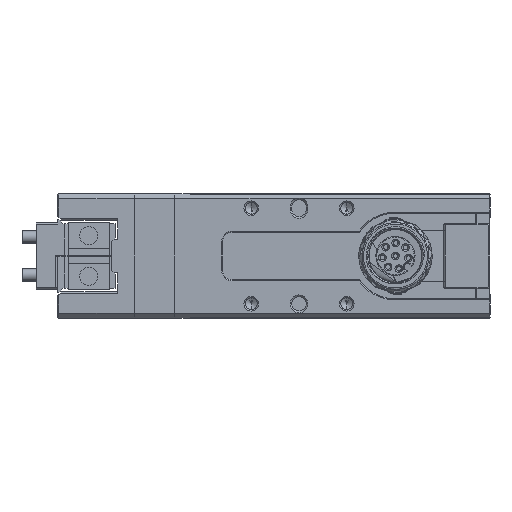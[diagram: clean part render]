
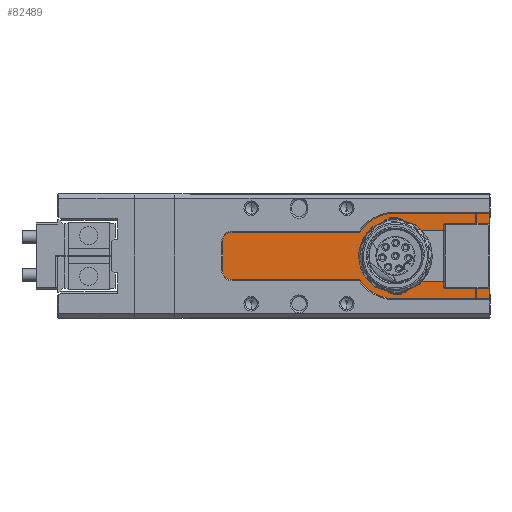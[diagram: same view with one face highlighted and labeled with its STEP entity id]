
A CAD part, left-side view. The second image highlights one B-rep face of the part: STEP entity #82489.
In plain terms, the highlighted planar face has unit normal (-1, 0, 0).
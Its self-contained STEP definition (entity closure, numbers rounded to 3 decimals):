
#1751 = DIRECTION ( 'NONE',  ( 1., 0., 0. ) ) ;
#3476 = EDGE_CURVE ( 'NONE', #31951, #28215, #84675, .T. ) ;
#3901 = CARTESIAN_POINT ( 'NONE',  ( -42.783, 27.441, 69. ) ) ;
#4408 = EDGE_CURVE ( 'NONE', #39711, #65776, #77613, .T. ) ;
#4821 = CARTESIAN_POINT ( 'NONE',  ( -42.783, 25.441, 69. ) ) ;
#6137 = CIRCLE ( 'NONE', #25662, 2. ) ;
#7329 = VERTEX_POINT ( 'NONE', #32264 ) ;
#8309 = CARTESIAN_POINT ( 'NONE',  ( -42.783, -8.759, 60.6 ) ) ;
#11488 = ORIENTED_EDGE ( 'NONE', *, *, #57384, .T. ) ;
#11498 = EDGE_CURVE ( 'NONE', #67606, #7329, #6137, .T. ) ;
#11634 = VECTOR ( 'NONE', #57357, 1000. ) ;
#14854 = CARTESIAN_POINT ( 'NONE',  ( -42.783, -28.559, 66. ) ) ;
#14938 = EDGE_CURVE ( 'NONE', #28793, #54229, #38570, .T. ) ;
#15330 = VECTOR ( 'NONE', #25865, 1000. ) ;
#15517 = EDGE_CURVE ( 'NONE', #28215, #53653, #35614, .T. ) ;
#16353 = CARTESIAN_POINT ( 'NONE',  ( -42.783, -10.559, 57. ) ) ;
#18112 = DIRECTION ( 'NONE',  ( 0., 0., 1. ) ) ;
#18461 = ORIENTED_EDGE ( 'NONE', *, *, #20992, .T. ) ;
#18501 = AXIS2_PLACEMENT_3D ( 'NONE', #14854, #41805, #60152 ) ;
#19010 = DIRECTION ( 'NONE',  ( 0., 1., 0. ) ) ;
#19272 = ORIENTED_EDGE ( 'NONE', *, *, #50276, .T. ) ;
#20195 = ORIENTED_EDGE ( 'NONE', *, *, #11498, .T. ) ;
#20992 = EDGE_CURVE ( 'NONE', #41733, #47699, #30709, .T. ) ;
#21226 = LINE ( 'NONE', #26916, #58570 ) ;
#21792 = DIRECTION ( 'NONE',  ( 0., 0., -1. ) ) ;
#21840 = CARTESIAN_POINT ( 'NONE',  ( -42.783, -8.759, 66. ) ) ;
#23546 = VERTEX_POINT ( 'NONE', #47347 ) ;
#23639 = ORIENTED_EDGE ( 'NONE', *, *, #24556, .T. ) ;
#23773 = CIRCLE ( 'NONE', #59867, 9. ) ;
#24419 = DIRECTION ( 'NONE',  ( 0., 0., -1. ) ) ;
#24556 = EDGE_CURVE ( 'NONE', #47699, #28793, #33584, .T. ) ;
#25148 = CARTESIAN_POINT ( 'NONE',  ( -42.783, -28.559, 71.4 ) ) ;
#25223 = ORIENTED_EDGE ( 'NONE', *, *, #4408, .T. ) ;
#25662 = AXIS2_PLACEMENT_3D ( 'NONE', #82459, #35893, #74634 ) ;
#25865 = DIRECTION ( 'NONE',  ( 0., -1., 0. ) ) ;
#26916 = CARTESIAN_POINT ( 'NONE',  ( -42.783, 27.441, 61. ) ) ;
#27491 = FACE_OUTER_BOUND ( 'NONE', #42798, .T. ) ;
#28215 = VERTEX_POINT ( 'NONE', #84371 ) ;
#28305 = DIRECTION ( 'NONE',  ( -1., 0., 0. ) ) ;
#28758 = PLANE ( 'NONE',  #18501 ) ;
#28793 = VERTEX_POINT ( 'NONE', #72060 ) ;
#29233 = CARTESIAN_POINT ( 'NONE',  ( -42.783, 27.441, 63. ) ) ;
#30709 = LINE ( 'NONE', #16353, #64647 ) ;
#30830 = CARTESIAN_POINT ( 'NONE',  ( -42.783, 27.441, 71. ) ) ;
#30861 = LINE ( 'NONE', #65222, #43758 ) ;
#30901 = CARTESIAN_POINT ( 'NONE',  ( -42.783, -28.559, 57. ) ) ;
#31617 = CARTESIAN_POINT ( 'NONE',  ( -42.783, -28.559, 60.6 ) ) ;
#31951 = VERTEX_POINT ( 'NONE', #45775 ) ;
#32264 = CARTESIAN_POINT ( 'NONE',  ( -42.783, 25.441, 61. ) ) ;
#32907 = CARTESIAN_POINT ( 'NONE',  ( -42.783, 27.441, 71. ) ) ;
#33188 = LINE ( 'NONE', #85408, #15330 ) ;
#33584 = LINE ( 'NONE', #47906, #76397 ) ;
#33801 = AXIS2_PLACEMENT_3D ( 'NONE', #21840, #28305, #54847 ) ;
#35614 = CIRCLE ( 'NONE', #81518, 2. ) ;
#35893 = DIRECTION ( 'NONE',  ( -1., 0., 0. ) ) ;
#38570 = LINE ( 'NONE', #31617, #60547 ) ;
#39711 = VERTEX_POINT ( 'NONE', #25148 ) ;
#40431 = ORIENTED_EDGE ( 'NONE', *, *, #15517, .T. ) ;
#41733 = VERTEX_POINT ( 'NONE', #54132 ) ;
#41805 = DIRECTION ( 'NONE',  ( 1., 0., 0. ) ) ;
#42798 = EDGE_LOOP ( 'NONE', ( #56908, #68906, #18461, #23639, #51594, #11488, #58254, #25223, #70998, #53956, #78931, #40431, #19272, #20195 ) ) ;
#43626 = VERTEX_POINT ( 'NONE', #67879 ) ;
#43758 = VECTOR ( 'NONE', #57845, 1000. ) ;
#44196 = DIRECTION ( 'NONE',  ( -1., 0., 0. ) ) ;
#45775 = CARTESIAN_POINT ( 'NONE',  ( -42.783, -1.276, 71. ) ) ;
#45913 = DIRECTION ( 'NONE',  ( 0., 1., 0. ) ) ;
#46498 = CARTESIAN_POINT ( 'NONE',  ( -42.783, -8.759, 71.4 ) ) ;
#47347 = CARTESIAN_POINT ( 'NONE',  ( -42.783, -1.276, 61. ) ) ;
#47699 = VERTEX_POINT ( 'NONE', #30901 ) ;
#47733 = DIRECTION ( 'NONE',  ( 0., -1., 0. ) ) ;
#47906 = CARTESIAN_POINT ( 'NONE',  ( -42.783, -28.559, 66. ) ) ;
#48260 = CARTESIAN_POINT ( 'NONE',  ( -42.783, -8.759, 66. ) ) ;
#48570 = EDGE_CURVE ( 'NONE', #7329, #23546, #21226, .T. ) ;
#49176 = CIRCLE ( 'NONE', #54796, 5.4 ) ;
#50275 = CARTESIAN_POINT ( 'NONE',  ( -42.783, -8.759, 66. ) ) ;
#50276 = EDGE_CURVE ( 'NONE', #53653, #67606, #62304, .T. ) ;
#51594 = ORIENTED_EDGE ( 'NONE', *, *, #14938, .T. ) ;
#51936 = DIRECTION ( 'NONE',  ( 0., 0., 1. ) ) ;
#53653 = VERTEX_POINT ( 'NONE', #3901 ) ;
#53956 = ORIENTED_EDGE ( 'NONE', *, *, #72893, .T. ) ;
#54132 = CARTESIAN_POINT ( 'NONE',  ( -42.783, -8.759, 57. ) ) ;
#54229 = VERTEX_POINT ( 'NONE', #8309 ) ;
#54796 = AXIS2_PLACEMENT_3D ( 'NONE', #48260, #1751, #21792 ) ;
#54847 = DIRECTION ( 'NONE',  ( 0., 0., 1. ) ) ;
#56908 = ORIENTED_EDGE ( 'NONE', *, *, #48570, .T. ) ;
#57357 = DIRECTION ( 'NONE',  ( 0., 0., -1. ) ) ;
#57384 = EDGE_CURVE ( 'NONE', #54229, #63783, #49176, .T. ) ;
#57845 = DIRECTION ( 'NONE',  ( 0., -1., 0. ) ) ;
#58254 = ORIENTED_EDGE ( 'NONE', *, *, #61149, .T. ) ;
#58570 = VECTOR ( 'NONE', #47733, 1000. ) ;
#58876 = VECTOR ( 'NONE', #45913, 1000. ) ;
#59867 = AXIS2_PLACEMENT_3D ( 'NONE', #50275, #44196, #18112 ) ;
#60152 = DIRECTION ( 'NONE',  ( 0., 0., -1. ) ) ;
#60216 = CIRCLE ( 'NONE', #33801, 9. ) ;
#60547 = VECTOR ( 'NONE', #19010, 1000. ) ;
#61149 = EDGE_CURVE ( 'NONE', #63783, #39711, #33188, .T. ) ;
#62124 = CARTESIAN_POINT ( 'NONE',  ( -42.783, -28.559, 75. ) ) ;
#62304 = LINE ( 'NONE', #30830, #11634 ) ;
#63522 = EDGE_CURVE ( 'NONE', #23546, #41733, #60216, .T. ) ;
#63783 = VERTEX_POINT ( 'NONE', #46498 ) ;
#64647 = VECTOR ( 'NONE', #70750, 1000. ) ;
#65222 = CARTESIAN_POINT ( 'NONE',  ( -42.783, -10.559, 75. ) ) ;
#65454 = CARTESIAN_POINT ( 'NONE',  ( -42.783, -28.559, 66. ) ) ;
#65476 = EDGE_CURVE ( 'NONE', #43626, #65776, #30861, .T. ) ;
#65776 = VERTEX_POINT ( 'NONE', #62124 ) ;
#66938 = VECTOR ( 'NONE', #51936, 1000. ) ;
#67606 = VERTEX_POINT ( 'NONE', #29233 ) ;
#67879 = CARTESIAN_POINT ( 'NONE',  ( -42.783, -8.759, 75. ) ) ;
#68906 = ORIENTED_EDGE ( 'NONE', *, *, #63522, .T. ) ;
#69661 = DIRECTION ( 'NONE',  ( -1., 0., 0. ) ) ;
#70750 = DIRECTION ( 'NONE',  ( 0., -1., 0. ) ) ;
#70998 = ORIENTED_EDGE ( 'NONE', *, *, #65476, .F. ) ;
#72060 = CARTESIAN_POINT ( 'NONE',  ( -42.783, -28.559, 60.6 ) ) ;
#72893 = EDGE_CURVE ( 'NONE', #43626, #31951, #23773, .T. ) ;
#74034 = DIRECTION ( 'NONE',  ( 0., 0., 1. ) ) ;
#74634 = DIRECTION ( 'NONE',  ( 0., 0., -1. ) ) ;
#76397 = VECTOR ( 'NONE', #74034, 1000. ) ;
#77613 = LINE ( 'NONE', #65454, #66938 ) ;
#78931 = ORIENTED_EDGE ( 'NONE', *, *, #3476, .T. ) ;
#81518 = AXIS2_PLACEMENT_3D ( 'NONE', #4821, #69661, #24419 ) ;
#82459 = CARTESIAN_POINT ( 'NONE',  ( -42.783, 25.441, 63. ) ) ;
#82489 = ADVANCED_FACE ( 'NONE', ( #27491 ), #28758, .F. ) ;
#84371 = CARTESIAN_POINT ( 'NONE',  ( -42.783, 25.441, 71. ) ) ;
#84675 = LINE ( 'NONE', #32907, #58876 ) ;
#85408 = CARTESIAN_POINT ( 'NONE',  ( -42.783, -28.559, 71.4 ) ) ;
